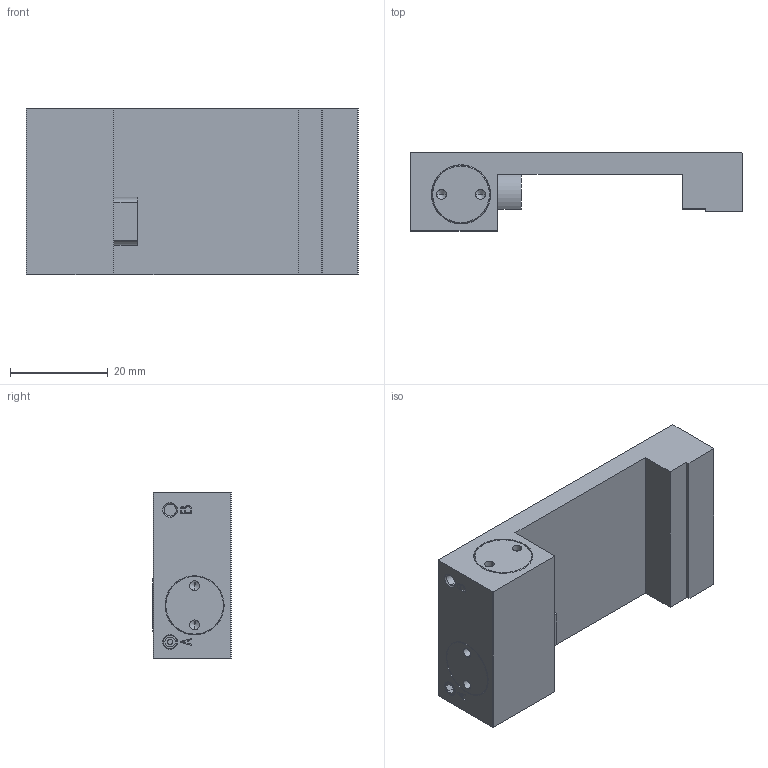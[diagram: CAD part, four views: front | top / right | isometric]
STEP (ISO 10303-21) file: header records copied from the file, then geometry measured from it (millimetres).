
FILE_DESCRIPTION( ( '' ), '1' );
FILE_NAME( 'E:/04 嬴檜蠱滌/0404 ZIMMER/040414 ZIMMER CAD download/MCP/MCP1701B---.stp', '2020-04-16T10:02:46', ( '' ), ( '' ), ' ', ' ', ' ' );
FILE_SCHEMA( ( 'automotive_design' ) );
Length unit declared in the file: millimetre
Products named in the file (1): 1
Bounding box: 68 x 16.05 x 34 mm (x, y, z)
Volume: 20517.2 mm3; surface area: 7934.9 mm2
Topology: 1 solids, 1 shells, 118 faces, 280 edges, 176 vertices
Faces by surface type: plane 64, cylinder 32, cone 22
Entity records: 6536 total; most frequent: DIRECTION 590, STYLED_ITEM 567, PRESENTATION_STYLE_ASSIGNMENT 567, CARTESIAN_POINT 567, COLOUR_RGB 567, ORIENTED_EDGE 544, EDGE_CURVE 272, CURVE_STYLE 272
